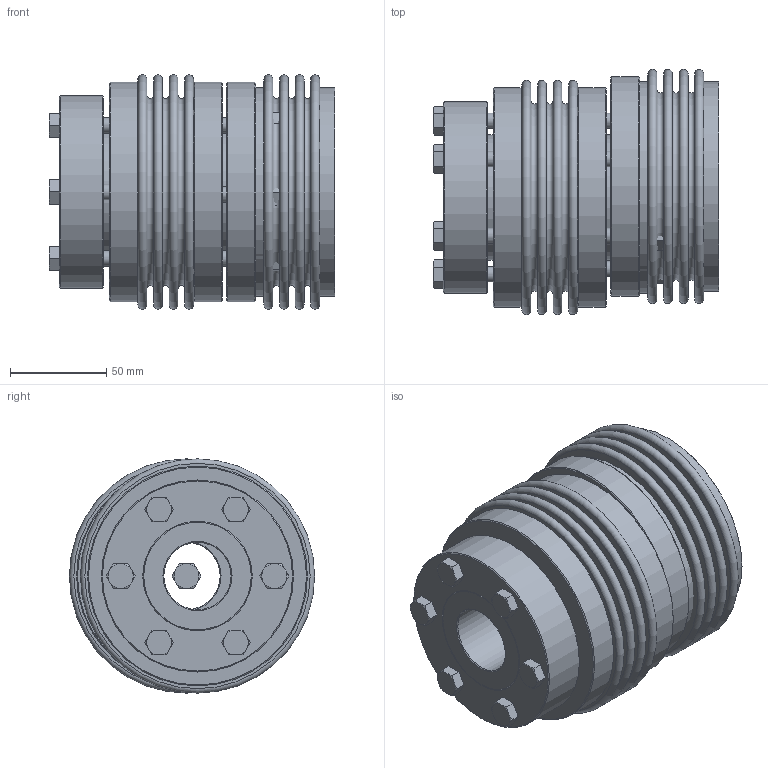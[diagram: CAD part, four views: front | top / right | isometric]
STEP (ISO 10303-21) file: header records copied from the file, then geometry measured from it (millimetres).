
FILE_DESCRIPTION( ( 'Unknown' ), '1' );
FILE_NAME( 'C:/Dokumente und Einstellungen/Sven/Desktop/homepage/cad - homepage/KB6/KB6-500-122.stp', 'Unknown', ( 'Unknown' ), ( 'Unknown' ), 'XStep 1.0', 'Unknown', ' ' );
FILE_SCHEMA( ( 'automotive_design' ) );
Length unit declared in the file: millimetre
Products named in the file (5): Assem1; DR500_Standard_0; Hex Screw GradeC_DIN_ISO 4018 - M8 x 40-NN_0; BA500_Standard_0; BK500_Standard_0
Bounding box: 148.89 x 127.72 x 121.99 mm (x, y, z)
Volume: 965958 mm3; surface area: 361999.6 mm2
Topology: 21 solids, 21 shells, 383 faces, 789 edges, 496 vertices
Faces by surface type: plane 168, cone 118, cylinder 69, torus 28
Full cylindrical faces by diameter (mm): 6.8 x18, 8 x13, 9 x18, 35 x3, 65.111 x3, 100 x3, 107.7 x4, 108.9 x4, 114.5 x3
Entity records: 2204 total; most frequent: DIRECTION 388, CARTESIAN_POINT 347, ORIENTED_EDGE 222, AXIS2_PLACEMENT_3D 188, EDGE_LOOP 176, FACE_OUTER_BOUND 118, EDGE_CURVE 111, VERTEX_POINT 99
